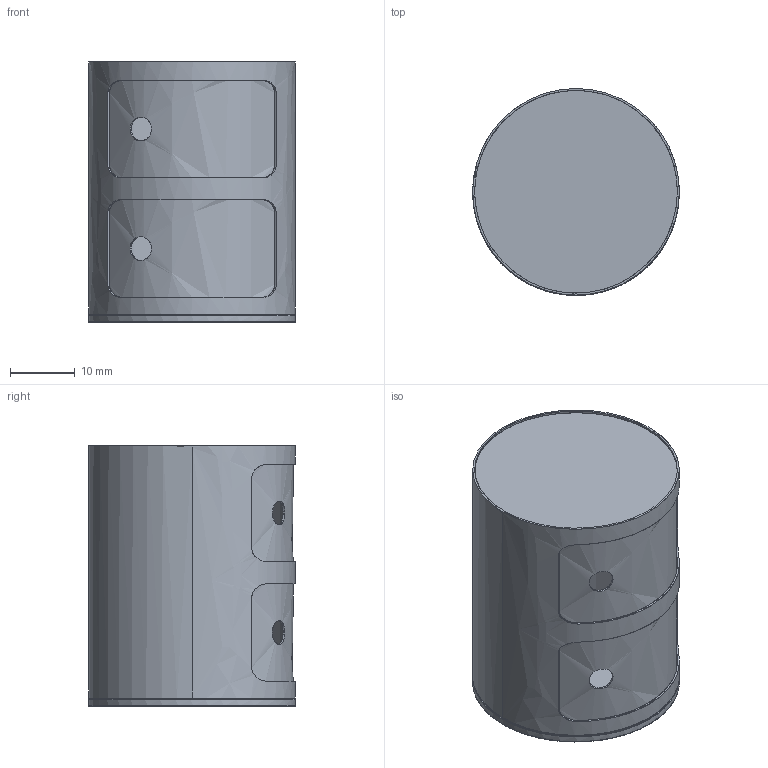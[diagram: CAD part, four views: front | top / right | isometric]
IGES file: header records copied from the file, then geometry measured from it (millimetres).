
Global section: file name: D:\3ddFactory\3D_Kartell\Ex-novo_3dd\componibili\4966\Componibili_3d_Anna Castelli Ferrieri_Kartell.igs; native system: Rhinoceros ( Mar 10 2014 ); preprocessor: Trout Lake IGES 012 Mar 10 2014; date: 180212.133429; units: millimetre
Bounding box: 32 x 32 x 40.4 mm (x, y, z)
Surface area: 13508 mm2 (no closed solid volume)
Topology: 0 solids, 0 shells, 32 faces, 453 edges, 445 vertices
Faces by surface type: bspline 32
